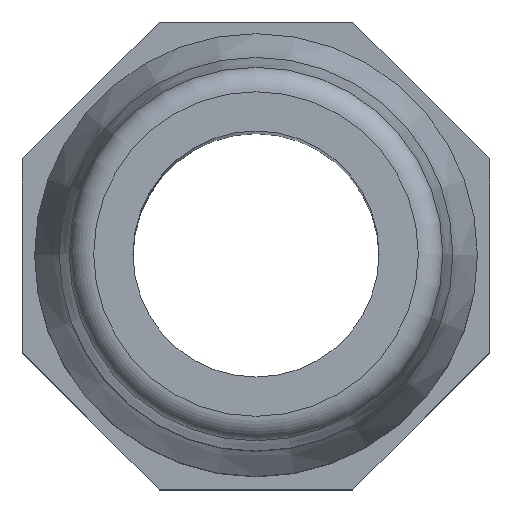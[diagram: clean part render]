
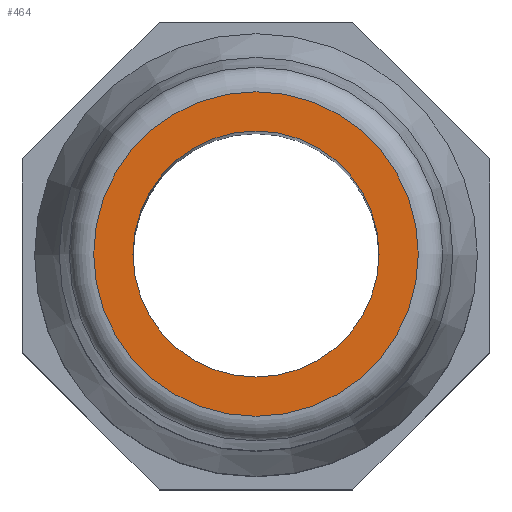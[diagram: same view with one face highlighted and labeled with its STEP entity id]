
A CAD part, top view. The second image highlights one B-rep face of the part: STEP entity #464.
In plain terms, the highlighted planar face has unit normal (0, 0, 1).
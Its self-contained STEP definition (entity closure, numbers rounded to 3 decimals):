
#88=PLANE('',#503);
#115=FACE_BOUND('',#171,.T.);
#134=FACE_OUTER_BOUND('',#170,.T.);
#170=EDGE_LOOP('',(#347));
#171=EDGE_LOOP('',(#348));
#220=CIRCLE('',#500,6.595);
#222=CIRCLE('',#504,5.);
#241=VERTEX_POINT('',#681);
#243=VERTEX_POINT('',#687);
#285=EDGE_CURVE('',#241,#241,#220,.T.);
#287=EDGE_CURVE('',#243,#243,#222,.T.);
#347=ORIENTED_EDGE('',*,*,#285,.F.);
#348=ORIENTED_EDGE('',*,*,#287,.F.);
#464=ADVANCED_FACE('',(#134,#115),#88,.T.);
#500=AXIS2_PLACEMENT_3D('',#682,#554,#555);
#503=AXIS2_PLACEMENT_3D('',#686,#560,#561);
#504=AXIS2_PLACEMENT_3D('',#688,#562,#563);
#554=DIRECTION('center_axis',(0.,0.,-1.));
#555=DIRECTION('ref_axis',(-1.,0.,0.));
#560=DIRECTION('center_axis',(0.,0.,1.));
#561=DIRECTION('ref_axis',(1.,0.,0.));
#562=DIRECTION('center_axis',(0.,0.,1.));
#563=DIRECTION('ref_axis',(1.,0.,0.));
#681=CARTESIAN_POINT('',(6.595,0.,63.));
#682=CARTESIAN_POINT('Origin',(0.,0.,63.));
#686=CARTESIAN_POINT('Origin',(5.,0.,63.));
#687=CARTESIAN_POINT('',(5.,0.,63.));
#688=CARTESIAN_POINT('Origin',(0.,0.,63.));
